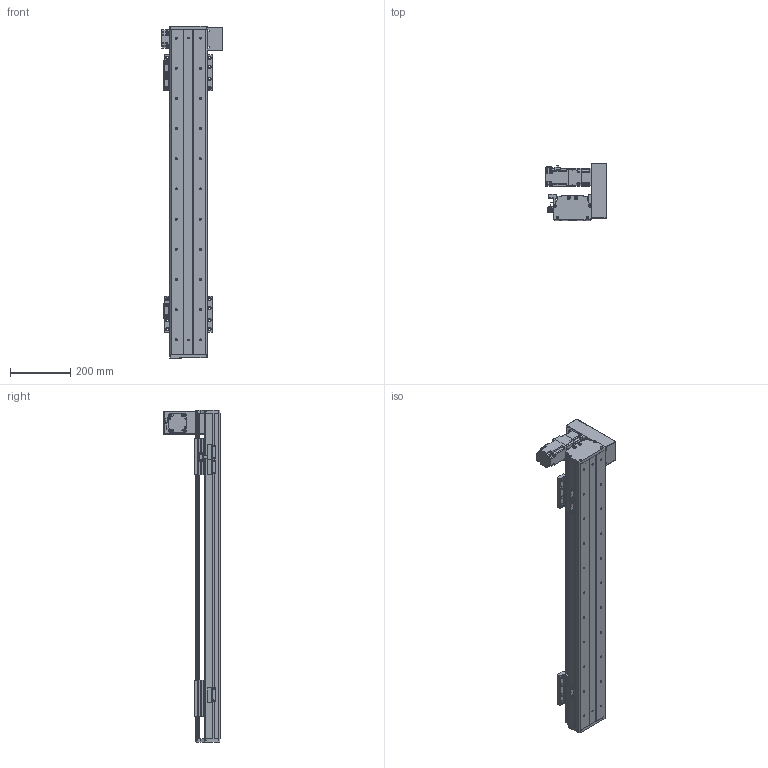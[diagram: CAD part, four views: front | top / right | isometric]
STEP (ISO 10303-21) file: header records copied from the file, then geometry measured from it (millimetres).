
FILE_DESCRIPTION(/* description */ (''),/* implementation_level */ '2;1');
FILE_NAME(/* name */ 'C:\Users\PC\Desktop\3D도면\STEP\DSB125-UR2G-W0800-L.stp',/* time_stamp */ '2018-06-19T16:54:05+09:00',/* author */ ('PC'),/* organization */ (''),/* preprocessor_version */ 'ST-DEVELOPER v16.5',/* originating_system */ 'Autodesk Inventor 2017',/* authorisation */ '');
FILE_SCHEMA (('AUTOMOTIVE_DESIGN { 1 0 10303 214 3 1 1 }'));
Length unit declared in the file: millimetre
Products named in the file (12): DSB125-UL2G-W0800-R_MIR; DSB125-BASE_MIR; DSB125-UP COVER_MIR; DSB125-FRONT COVER_MIR; DSB125-REAR COVER_MIR; hg-kr23__MIR; ab0601-p0401200402_MIR; 13-BELT COVER_MIR; DSR125-SENSOR DOG_MIR; SENSOR BRACKET(EE-SX674A)_MIR; pm-y65_step_MIR; DSB125-TABLE(MSB15S)_MIR
Assembly tree (16 placements, depth 2):
  DSB125-UL2G-W0800-R_MIR
    DSB125-BASE_MIR
    DSB125-UP COVER_MIR
    DSB125-FRONT COVER_MIR
    DSB125-REAR COVER_MIR
    hg-kr23__MIR
    ab0601-p0401200402_MIR
    13-BELT COVER_MIR
    DSR125-SENSOR DOG_MIR
    SENSOR BRACKET(EE-SX674A)_MIR  x3
    pm-y65_step_MIR  x3
    DSB125-TABLE(MSB15S)_MIR  x2
Bounding box: 202.1 x 187 x 1100 mm (x, y, z)
Volume: 4258173.1 mm3; surface area: 1227737.1 mm2
Topology: 17 solids, 17 shells, 1655 faces, 4490 edges, 2960 vertices
Faces by surface type: plane 903, cylinder 628, cone 112, sphere 8, torus 4
Full cylindrical faces by diameter (mm): 2.459 x20, 3.242 x16, 3.5 x6, 4 x1, 4.134 x16, 4.2 x4, 4.3 x1, 4.5 x50, 4.917 x20, 5 x22, 5.3 x1, 5.5 x4, 5.6 x8, 5.8 x4, 5.9 x8, 6 x4, 6.6 x22, 6.647 x22, 7.5 x32, 8.5 x8, 8.7 x1, 11 x22, 14 x1, 16 x2, 17 x1, 20 x1, 47 x1, 50 x3
Entity records: 35885 total; most frequent: CARTESIAN_POINT 6471, DIRECTION 6090, ORIENTED_EDGE 5466, EDGE_CURVE 2733, AXIS2_PLACEMENT_3D 2233, VERTEX_POINT 1942, EDGE_LOOP 1661, LINE 1624
